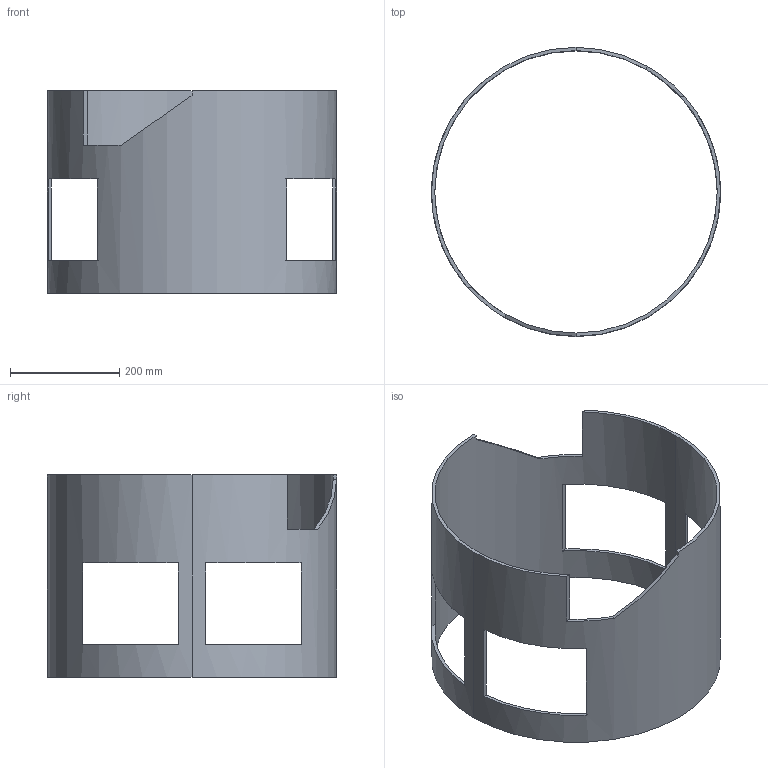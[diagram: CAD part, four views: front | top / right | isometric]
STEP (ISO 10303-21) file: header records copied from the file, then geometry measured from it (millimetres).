
FILE_DESCRIPTION (( 'STEP AP203' ), '1' );
FILE_NAME ('YWSD-2026-03-01-01-01=003 唅蛌笢潔奪.STEP', '2026-07-24T07:29:42', ( 'Windows 蚚誧' ), ( '' ), 'SwSTEP 2.0', 'SolidWorks 2024', '' );
FILE_SCHEMA (( 'CONFIG_CONTROL_DESIGN' ));
Length unit declared in the file: millimetre
Products named in the file (1): YWSD-2026-03-01-01-01=003 旋转中间管
Bounding box: 530 x 530 x 372 mm (x, y, z)
Volume: 2753932.5 mm3; surface area: 958704.8 mm2
Topology: 1 solids, 1 shells, 31 faces, 90 edges, 60 vertices
Faces by surface type: plane 27, cylinder 4
Entity records: 1133 total; most frequent: CARTESIAN_POINT 194, DIRECTION 182, ORIENTED_EDGE 180, EDGE_CURVE 90, AXIS2_PLACEMENT_3D 64, VERTEX_POINT 60, VECTOR 54, LINE 54
